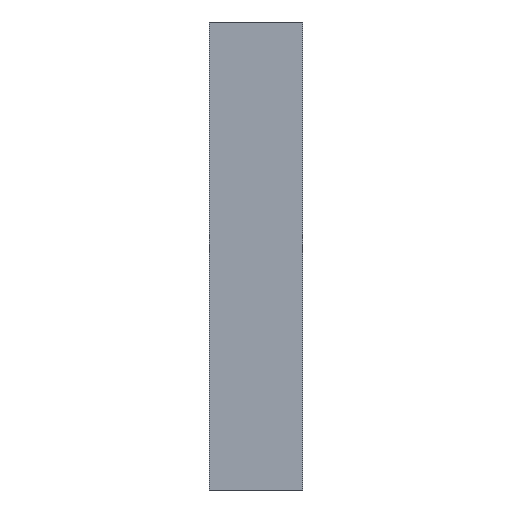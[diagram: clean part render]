
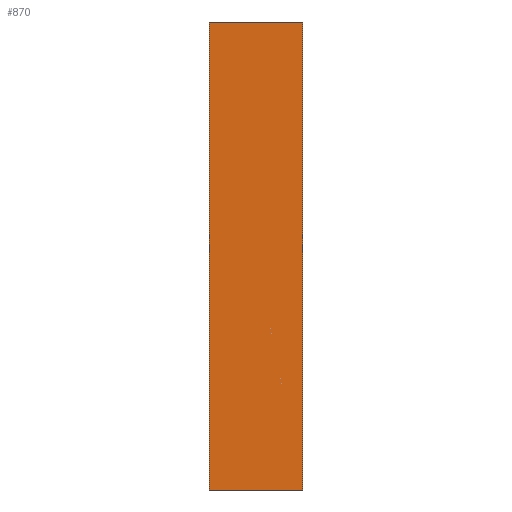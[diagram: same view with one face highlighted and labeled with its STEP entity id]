
A CAD part, front view. The second image highlights one B-rep face of the part: STEP entity #870.
In plain terms, the highlighted planar face has unit normal (0, -1, 0).
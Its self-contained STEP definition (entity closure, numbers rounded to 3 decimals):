
#10 = PLANE ( 'NONE',  #1600 ) ;
#159 = CARTESIAN_POINT ( 'NONE',  ( 300., 0., -1500. ) ) ;
#357 = CARTESIAN_POINT ( 'NONE',  ( 300., 0., 1500. ) ) ;
#369 = LINE ( 'NONE', #1942, #1397 ) ;
#467 = VECTOR ( 'NONE', #476, 1000. ) ;
#476 = DIRECTION ( 'NONE',  ( 1., 0., 0. ) ) ;
#507 = EDGE_LOOP ( 'NONE', ( #1580, #618, #1077, #1394 ) ) ;
#593 = LINE ( 'NONE', #1185, #1436 ) ;
#618 = ORIENTED_EDGE ( 'NONE', *, *, #650, .F. ) ;
#650 = EDGE_CURVE ( 'NONE', #944, #809, #2089, .T. ) ;
#729 = DIRECTION ( 'NONE',  ( -1., 0., 0. ) ) ;
#736 = VERTEX_POINT ( 'NONE', #847 ) ;
#809 = VERTEX_POINT ( 'NONE', #159 ) ;
#847 = CARTESIAN_POINT ( 'NONE',  ( -300., 0., 1500. ) ) ;
#856 = EDGE_CURVE ( 'NONE', #2140, #809, #369, .T. ) ;
#870 = ADVANCED_FACE ( 'NONE', ( #1913 ), #10, .F. ) ;
#928 = EDGE_CURVE ( 'NONE', #736, #2140, #593, .T. ) ;
#944 = VERTEX_POINT ( 'NONE', #2141 ) ;
#1077 = ORIENTED_EDGE ( 'NONE', *, *, #1985, .F. ) ;
#1124 = CARTESIAN_POINT ( 'NONE',  ( -300., 0., 1500. ) ) ;
#1164 = DIRECTION ( 'NONE',  ( 0., 1., 0. ) ) ;
#1185 = CARTESIAN_POINT ( 'NONE',  ( -300., 0., 1500. ) ) ;
#1331 = CARTESIAN_POINT ( 'NONE',  ( -300., 0., 1500. ) ) ;
#1394 = ORIENTED_EDGE ( 'NONE', *, *, #928, .T. ) ;
#1397 = VECTOR ( 'NONE', #2125, 1000. ) ;
#1399 = DIRECTION ( 'NONE',  ( 0., 0., -1. ) ) ;
#1436 = VECTOR ( 'NONE', #1399, 1000. ) ;
#1534 = LINE ( 'NONE', #1331, #467 ) ;
#1580 = ORIENTED_EDGE ( 'NONE', *, *, #856, .T. ) ;
#1600 = AXIS2_PLACEMENT_3D ( 'NONE', #1124, #1164, #729 ) ;
#1640 = VECTOR ( 'NONE', #1914, 1000. ) ;
#1913 = FACE_OUTER_BOUND ( 'NONE', #507, .T. ) ;
#1914 = DIRECTION ( 'NONE',  ( 0., 0., -1. ) ) ;
#1942 = CARTESIAN_POINT ( 'NONE',  ( -300., 0., -1500. ) ) ;
#1985 = EDGE_CURVE ( 'NONE', #736, #944, #1534, .T. ) ;
#2031 = CARTESIAN_POINT ( 'NONE',  ( -300., 0., -1500. ) ) ;
#2089 = LINE ( 'NONE', #357, #1640 ) ;
#2125 = DIRECTION ( 'NONE',  ( 1., 0., 0. ) ) ;
#2140 = VERTEX_POINT ( 'NONE', #2031 ) ;
#2141 = CARTESIAN_POINT ( 'NONE',  ( 300., 0., 1500. ) ) ;
